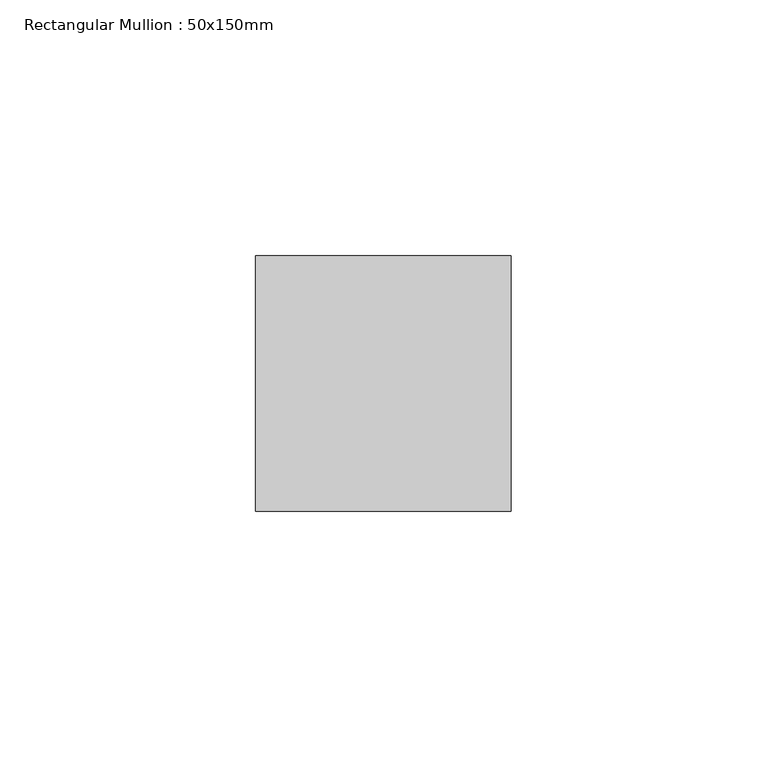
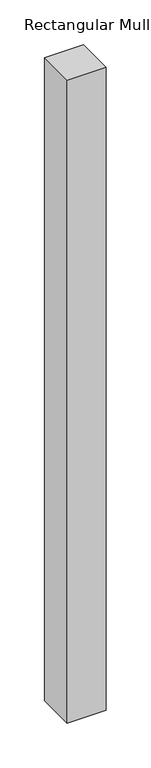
"""IFC4 building model written with IfcOpenShell, lengths in millimetres: member geometry, Rectangular Mullion : 50x150mm."""

from ifc_helpers import new_model, si_unit, frame, origin, place, context, project, spatial, polyline, outline, extrude, source, transform, mapped, element, save


def rectangular_mullion_50x150mm_b1203546(model_context):
    return source(origin(), model_context, "Body", "SweptSolid", [
        extrude(outline(polyline([(0.0, 25.0), (0.0, -25.0), (-50.0, -25.0), (-50.0, 25.0), (0.0, 25.0)])), frame((0.0, 0.0, -873.0393929), z_axis=(0.0, 0.0, 1.0), x_axis=(1.0, 0.0, 0.0)), (0.0, 0.0, 1.0), 873.0393929),
    ])


if __name__ == "__main__":
    model = new_model("IFC4")
    model_context = context("Model", 3, world=origin())
    ifc_project = project(units=[si_unit("LENGTHUNIT", "METRE", prefix="MILLI")], contexts=[model_context])
    site = spatial("IfcSite", under=ifc_project)
    building = spatial("IfcBuilding", under=site)
    placement = place(None, origin())
    rectangular_mullion_50x150mm_shape = rectangular_mullion_50x150mm_b1203546(model_context)
    element("IfcMember", 1, ObjectType="Rectangular Mullion : 50x150mm", at=placement, inside=building, context=model_context, shape_type="MappedRepresentation", body=[
        mapped(rectangular_mullion_50x150mm_shape, transform((0.0, 0.0, 0.0), x_axis=(1.0, 0.0, 0.0), y_axis=(0.0, 1.0, 0.0), z_axis=(0.0, 0.0, 1.0))),
    ])
    save(model, "model.ifc")
